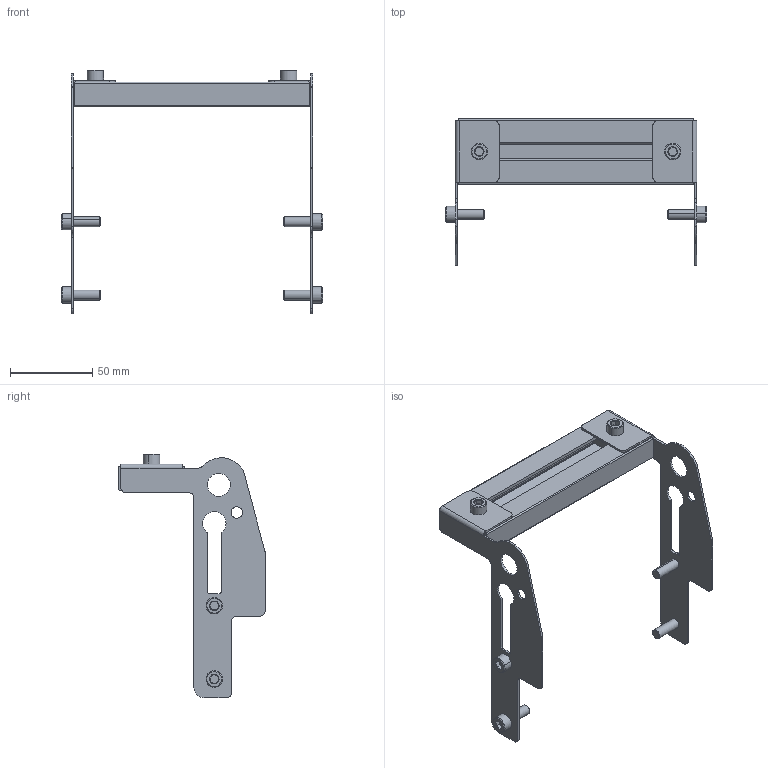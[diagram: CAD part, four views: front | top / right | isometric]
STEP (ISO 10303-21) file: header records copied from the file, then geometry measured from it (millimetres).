
FILE_DESCRIPTION((''),'2;1');
FILE_NAME('207213-05_ASM','2016-07-08T',('adam.dellomodarme'),(''),'PRO/ENGINEER BY PARAMETRIC TECHNOLOGY CORPORATION, 2012420','PRO/ENGINEER BY PARAMETRIC TECHNOLOGY CORPORATION, 2012420','');
FILE_SCHEMA(('CONFIG_CONTROL_DESIGN'));
Length unit declared in the file: inch
Products named in the file (8): 207130-LH; 207130-RH; 9206XXM_920618M; 9206XXM_920612M; 834-019; 207216-WW_207216-05; ASM0001_ASM; 207213-05_ASM
Assembly tree (12 placements, depth 3):
  207213-05_ASM
    ASM0001_ASM
      207130-LH
      207130-RH
      9206XXM_920618M  x4
      9206XXM_920612M  x2
      834-019  x2
      207216-WW_207216-05
Bounding box: 158.61 x 88.64 x 147.81 mm (x, y, z)
Volume: 61668.2 mm3; surface area: 64940 mm2
Topology: 11 solids, 11 shells, 344 faces, 843 edges, 533 vertices
Faces by surface type: plane 146, cylinder 132, cone 66
Entity records: 7895 total; most frequent: CARTESIAN_POINT 1554, DIRECTION 1356, ORIENTED_EDGE 1258, EDGE_CURVE 629, AXIS2_PLACEMENT_3D 504, VERTEX_POINT 409, VECTOR 348, LINE 348
